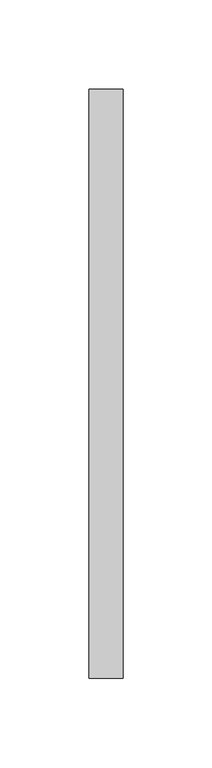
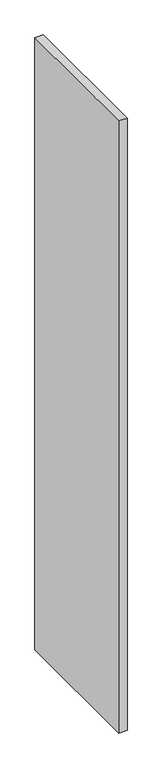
"""IFC4 building model written with IfcOpenShell, lengths in millimetres: proxy geometry, FOUNDATION^PO3_WIRE WALL-RISING MODESTY."""

from ifc_helpers import new_model, si_unit, frame, origin, place, context, project, spatial, polyline, outline, extrude, source, transform, mapped, element, save


def generic_models_312f1a2c(model_context):
    return source(origin(), model_context, "Body", "SweptSolid", [
        extrude(outline(polyline([(0.0, 0.0), (0.0, 330.2), (19.05, 330.2), (19.05, 0.0), (0.0, 0.0)])), frame((0.0, 0.0, -1473.2), z_axis=(0.0, 0.0, 1.0), x_axis=(1.0, 0.0, 0.0)), (0.0, 0.0, 1.0), 1473.2),
    ])


if __name__ == "__main__":
    model = new_model("IFC4")
    model_context = context("Model", 3, world=origin())
    ifc_project = project(units=[si_unit("LENGTHUNIT", "METRE", prefix="MILLI")], contexts=[model_context])
    site = spatial("IfcSite", under=ifc_project)
    building = spatial("IfcBuilding", under=site)
    placement = place(None, origin())
    generic_models_shape = generic_models_312f1a2c(model_context)
    element("IfcBuildingElementProxy", 1, Name="FOUNDATION^PO3_WIRE WALL-RISING MODESTY", ObjectType="FOUNDATION^PO3_WIRE WALL-RISING MODESTY", at=placement, inside=building, context=model_context, shape_type="MappedRepresentation", body=[
        mapped(generic_models_shape, transform((0.0, 0.0, 0.0), x_axis=(1.0, 0.0, 0.0), y_axis=(0.0, 1.0, 0.0), z_axis=(0.0, 0.0, 1.0))),
    ])
    save(model, "model.ifc")
